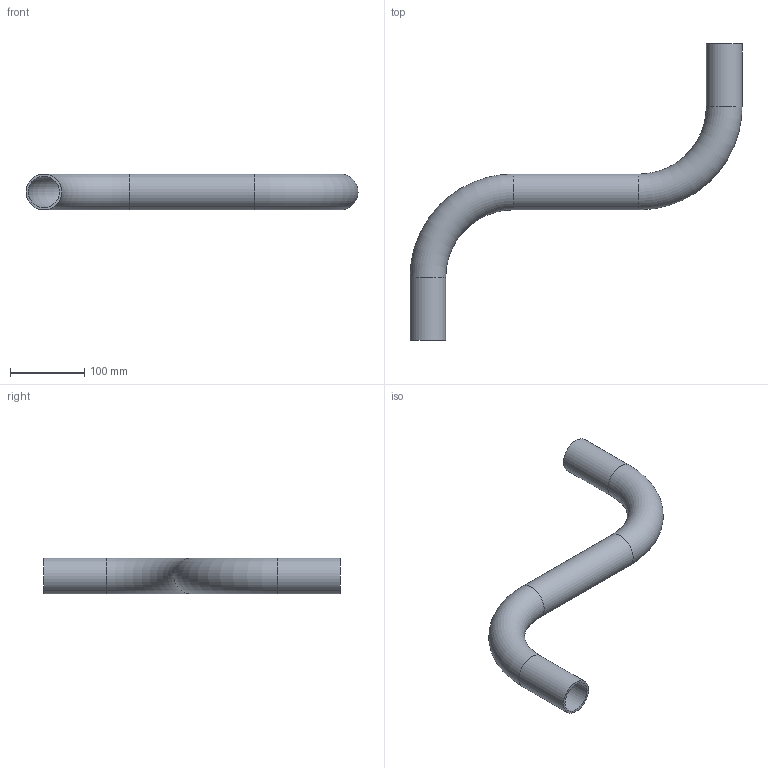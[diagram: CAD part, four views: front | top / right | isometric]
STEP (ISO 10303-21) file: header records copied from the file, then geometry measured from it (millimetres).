
FILE_DESCRIPTION (( 'STEP AP203' ), '1' );
FILE_NAME ('TK048.S.0200.0400.0200.STEP', '2026-07-30T05:20:33', ( '' ), ( '' ), 'SwSTEP 2.0', 'SolidWorks 2022', '' );
FILE_SCHEMA (( 'CONFIG_CONTROL_DESIGN' ));
Length unit declared in the file: millimetre
Products named in the file (1): TK048.S.0200.0400.0200
Bounding box: 448.3 x 400 x 48.3 mm (x, y, z)
Volume: 299407.5 mm3; surface area: 200458.9 mm2
Topology: 1 solids, 1 shells, 12 faces, 22 edges, 12 vertices
Faces by surface type: cylinder 6, torus 4, plane 2
Full cylindrical faces by diameter (mm): 42.3 x3, 48.3 x3
Entity records: 325 total; most frequent: DIRECTION 50, CARTESIAN_POINT 37, AXIS2_PLACEMENT_3D 25, EDGE_LOOP 24, ORIENTED_EDGE 24, FACE_OUTER_BOUND 22, EDGE_CURVE 12, VERTEX_POINT 12
